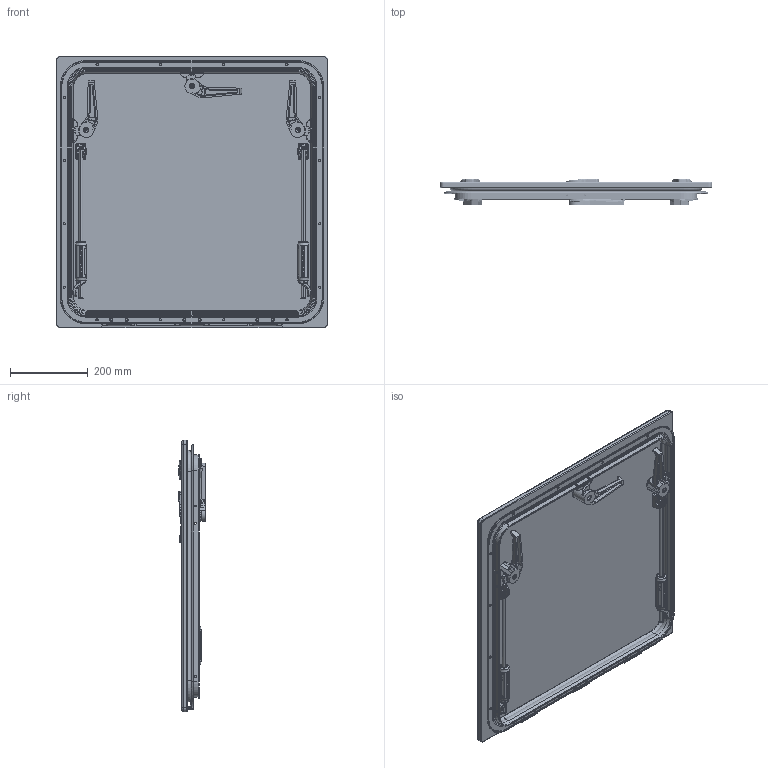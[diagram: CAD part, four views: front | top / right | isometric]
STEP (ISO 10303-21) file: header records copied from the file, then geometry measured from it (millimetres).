
FILE_DESCRIPTION((''),'2;1');
FILE_NAME('39970X1Y_MOD_ASM','2009-12-17T',('awickes'),(''),'PRO/ENGINEER BY PARAMETRIC TECHNOLOGY CORPORATION, 2007030','PRO/ENGINEER BY PARAMETRIC TECHNOLOGY CORPORATION, 2007030','');
FILE_SCHEMA(('CONFIG_CONTROL_DESIGN'));
Length unit declared in the file: millimetre
Products named in the file (24): 35002018Y_MOD; 35001733; 35001706; 35000998Z; 38002018Y_MOD_ASM; 35002017X_MOD; 35001707Z; 35001709Z; 35001959Y; 30191500_SEAL; 15801372Z; 35000999Z; 35001016Z; RH_LARGE_HANDLE_ASM; 15801371Z; 35001015Z; LH_LARGE_HANDLE_ASM; 38002017X_MOD_ASM; 35001703; 35001704; 35001007; 38001770Z_AF0_ASM; 38001770Z_AF1_ASM; 39970X1Y_MOD_ASM
Assembly tree (37 placements, depth 4):
  39970X1Y_MOD_ASM
    38002018Y_MOD_ASM
      35002018Y_MOD
      35001733  x3
      35001706  x2
      35000998Z  x3
    38002017X_MOD_ASM
      35002017X_MOD
      35001707Z  x2
      35001709Z  x2
      35001959Y  x3
      30191500_SEAL
      RH_LARGE_HANDLE_ASM  x2
        15801372Z
        35000999Z
        35001016Z
      LH_LARGE_HANDLE_ASM
        15801371Z
        35000999Z
        35001015Z
    38001770Z_AF0_ASM
      35001703
      35001704
      35001007
    38001770Z_AF1_ASM
      35001703
      35001704
      35001007
Bounding box: 697 x 67.24 x 697 mm (x, y, z)
Volume: 8501801 mm3; surface area: 1846535.8 mm2
Topology: 37 solids, 38 shells, 3889 faces, 9673 edges, 5944 vertices
Faces by surface type: cylinder 1315, plane 1192, bspline 699, torus 317, cone 247, sphere 103, extrusion 16
Entity records: 90098 total; most frequent: CARTESIAN_POINT 39714, ORIENTED_EDGE 10820, DIRECTION 9856, EDGE_CURVE 5410, AXIS2_PLACEMENT_3D 3760, VERTEX_POINT 3326, EDGE_LOOP 2390, VECTOR 2336
